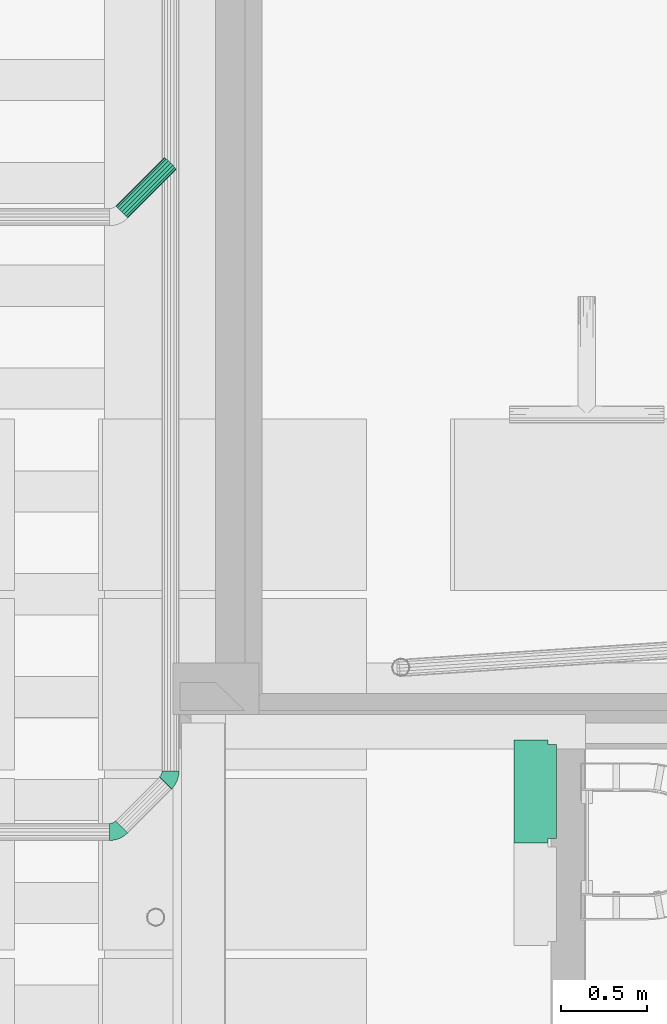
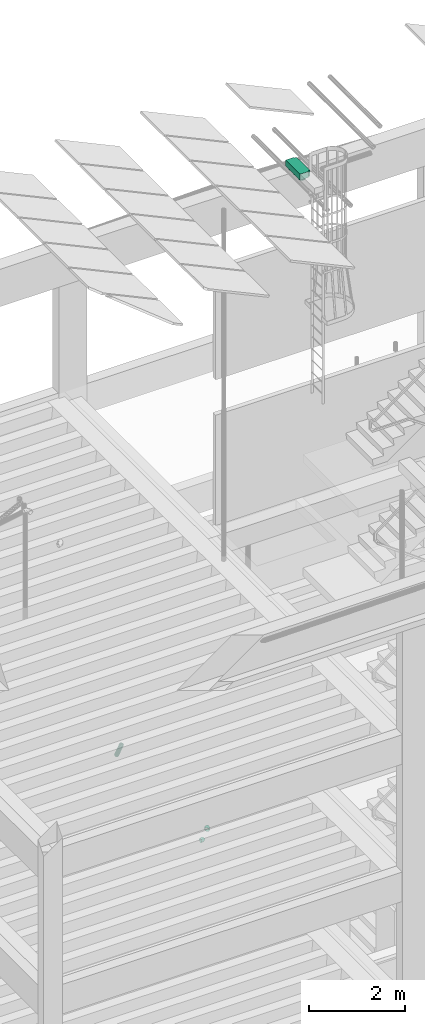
# One storey, part 84 of 106: 3 flow fittings, 1 flow segment.
"""IFC2X3 building model written with IfcOpenShell, lengths in metres."""

from ifc_helpers import new_model, entity, si_unit, converted_unit, derived_unit, money_unit, direction, frame, origin_with_axes, place, context, subcontext, project, spatial, open_shell, faceted_brep, surface_model, material, type_object, element, save


model = new_model("IFC2X3")

# Units and contexts
model_context = context("Model", 3, precision=1e-05, world=origin_with_axes(), true_north=direction((0.0, 1.0)))
body_context = subcontext(model_context, "Body", "Model", "MODEL_VIEW", scale=1.0)
ifc_project = project(units=[si_unit("LENGTHUNIT", "METRE"), si_unit("AREAUNIT", "SQUARE_METRE"), si_unit("VOLUMEUNIT", "CUBIC_METRE"), si_unit("ABSORBEDDOSEUNIT", "GRAY"), si_unit("AMOUNTOFSUBSTANCEUNIT", "MOLE"), si_unit("DOSEEQUIVALENTUNIT", "SIEVERT"), si_unit("ELECTRICCAPACITANCEUNIT", "FARAD"), si_unit("ELECTRICCHARGEUNIT", "COULOMB"), si_unit("ELECTRICCONDUCTANCEUNIT", "SIEMENS"), si_unit("ELECTRICCURRENTUNIT", "AMPERE"), si_unit("ELECTRICRESISTANCEUNIT", "OHM"), si_unit("ELECTRICVOLTAGEUNIT", "VOLT"), si_unit("ENERGYUNIT", "JOULE"), si_unit("FORCEUNIT", "NEWTON"), si_unit("FREQUENCYUNIT", "HERTZ"), si_unit("ILLUMINANCEUNIT", "LUX"), si_unit("INDUCTANCEUNIT", "HENRY"), si_unit("LUMINOUSFLUXUNIT", "LUMEN"), si_unit("LUMINOUSINTENSITYUNIT", "CANDELA"), si_unit("MAGNETICFLUXDENSITYUNIT", "TESLA"), si_unit("MAGNETICFLUXUNIT", "WEBER"), si_unit("MASSUNIT", "GRAM"), converted_unit("PLANEANGLEUNIT", "degree", entity("IfcReal", 0.0174532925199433), si_unit("PLANEANGLEUNIT", "RADIAN"), dimensions=[0, 0, 0, 0, 0, 0, 0]), si_unit("POWERUNIT", "WATT"), si_unit("PRESSUREUNIT", "PASCAL"), si_unit("RADIOACTIVITYUNIT", "BECQUEREL"), si_unit("SOLIDANGLEUNIT", "STERADIAN"), si_unit("THERMODYNAMICTEMPERATUREUNIT", "KELVIN"), si_unit("TIMEUNIT", "SECOND"), derived_unit("ACCELERATIONUNIT", [(si_unit("LENGTHUNIT", "METRE"), 1), (si_unit("TIMEUNIT", "SECOND"), -2)]), derived_unit("ANGULARVELOCITYUNIT", [(converted_unit("PLANEANGLEUNIT", "degree", entity("IfcReal", 0.0174532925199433), si_unit("PLANEANGLEUNIT", "RADIAN"), dimensions=[0, 0, 0, 0, 0, 0, 0]), 1), (si_unit("TIMEUNIT", "SECOND"), -1)]), derived_unit("CURVATUREUNIT", [(converted_unit("PLANEANGLEUNIT", "degree", entity("IfcReal", 0.0174532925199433), si_unit("PLANEANGLEUNIT", "RADIAN"), dimensions=[0, 0, 0, 0, 0, 0, 0]), 1), (si_unit("LENGTHUNIT", "METRE"), -1)]), derived_unit("DYNAMICVISCOSITYUNIT", [(si_unit("PRESSUREUNIT", "PASCAL"), 1), (si_unit("TIMEUNIT", "SECOND"), 1)]), derived_unit("HEATFLUXDENSITYUNIT", [(si_unit("POWERUNIT", "WATT"), 1), (si_unit("LENGTHUNIT", "METRE"), -2)]), derived_unit("HEATINGVALUEUNIT", [(si_unit("ENERGYUNIT", "JOULE"), 1), (si_unit("MASSUNIT", "GRAM"), -1)]), derived_unit("INTEGERCOUNTRATEUNIT", [(si_unit("TIMEUNIT", "SECOND"), -1)]), derived_unit("IONCONCENTRATIONUNIT", [(si_unit("MASSUNIT", "GRAM"), 1), (si_unit("VOLUMEUNIT", "CUBIC_METRE"), -1)]), derived_unit("ISOTHERMALMOISTURECAPACITYUNIT", [(si_unit("VOLUMEUNIT", "CUBIC_METRE"), 1), (si_unit("MASSUNIT", "GRAM"), -1)]), derived_unit("KINEMATICVISCOSITYUNIT", [(si_unit("AREAUNIT", "SQUARE_METRE"), 1), (si_unit("TIMEUNIT", "SECOND"), -1)]), derived_unit("LINEARFORCEUNIT", [(si_unit("FORCEUNIT", "NEWTON"), 1), (si_unit("LENGTHUNIT", "METRE"), -1)]), derived_unit("LINEARMOMENTUNIT", [(si_unit("FORCEUNIT", "NEWTON"), 1), (si_unit("LENGTHUNIT", "METRE"), -1)]), derived_unit("LINEARSTIFFNESSUNIT", [(si_unit("FORCEUNIT", "NEWTON"), 1), (si_unit("LENGTHUNIT", "METRE"), -1)]), derived_unit("LINEARVELOCITYUNIT", [(si_unit("LENGTHUNIT", "METRE"), 1), (si_unit("TIMEUNIT", "SECOND"), -1)]), derived_unit("LUMINOUSINTENSITYDISTRIBUTIONUNIT", [(si_unit("LUMINOUSINTENSITYUNIT", "CANDELA"), 1), (si_unit("LUMINOUSFLUXUNIT", "LUMEN"), -1)]), derived_unit("MASSDENSITYUNIT", [(si_unit("MASSUNIT", "GRAM"), 1), (si_unit("VOLUMEUNIT", "CUBIC_METRE"), -1)]), derived_unit("MASSFLOWRATEUNIT", [(si_unit("MASSUNIT", "GRAM"), 1), (si_unit("TIMEUNIT", "SECOND"), -1)]), derived_unit("MASSPERLENGTHUNIT", [(si_unit("MASSUNIT", "GRAM"), 1), (si_unit("LENGTHUNIT", "METRE"), -1)]), derived_unit("MODULUSOFELASTICITYUNIT", [(si_unit("FORCEUNIT", "NEWTON"), 1), (si_unit("AREAUNIT", "SQUARE_METRE"), -1)]), derived_unit("MODULUSOFLINEARSUBGRADEREACTIONUNIT", [(si_unit("FORCEUNIT", "NEWTON"), 1), (si_unit("LENGTHUNIT", "METRE"), -2)]), derived_unit("MODULUSOFROTATIONALSUBGRADEREACTIONUNIT", [(si_unit("FORCEUNIT", "NEWTON"), 1), (si_unit("LENGTHUNIT", "METRE"), 1)]), derived_unit("MODULUSOFSUBGRADEREACTIONUNIT", [(si_unit("FORCEUNIT", "NEWTON"), 1), (si_unit("VOLUMEUNIT", "CUBIC_METRE"), -1)]), derived_unit("MOISTUREDIFFUSIVITYUNIT", [(si_unit("VOLUMEUNIT", "CUBIC_METRE"), 1), (si_unit("TIMEUNIT", "SECOND"), -1)]), derived_unit("MOLECULARWEIGHTUNIT", [(si_unit("MASSUNIT", "GRAM"), 1), (si_unit("AMOUNTOFSUBSTANCEUNIT", "MOLE"), -1)]), derived_unit("PLANARFORCEUNIT", [(si_unit("FORCEUNIT", "NEWTON"), 1), (si_unit("LENGTHUNIT", "METRE"), -2)]), derived_unit("ROTATIONALFREQUENCYUNIT", [(si_unit("TIMEUNIT", "SECOND"), -1)]), derived_unit("ROTATIONALMASSUNIT", [(si_unit("MASSUNIT", "GRAM"), 1), (si_unit("LENGTHUNIT", "METRE"), 2)]), derived_unit("ROTATIONALSTIFFNESSUNIT", [(si_unit("FORCEUNIT", "NEWTON"), 1), (si_unit("LENGTHUNIT", "METRE"), 1), (converted_unit("PLANEANGLEUNIT", "degree", entity("IfcReal", 0.0174532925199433), si_unit("PLANEANGLEUNIT", "RADIAN"), dimensions=[0, 0, 0, 0, 0, 0, 0]), -1)]), derived_unit("SECTIONAREAINTEGRALUNIT", [(si_unit("LENGTHUNIT", "METRE"), 5)]), derived_unit("SECTIONMODULUSUNIT", [(si_unit("LENGTHUNIT", "METRE"), 3)]), derived_unit("SHEARMODULUSUNIT", [(si_unit("FORCEUNIT", "NEWTON"), 1), (si_unit("AREAUNIT", "SQUARE_METRE"), -1)]), derived_unit("SOUNDPOWERUNIT", [(si_unit("ENERGYUNIT", "JOULE"), 1), (si_unit("TIMEUNIT", "SECOND"), -1)]), derived_unit("SPECIFICHEATCAPACITYUNIT", [(si_unit("FORCEUNIT", "NEWTON"), 1), (si_unit("MASSUNIT", "GRAM"), -1), (si_unit("THERMODYNAMICTEMPERATUREUNIT", "KELVIN"), -1)]), derived_unit("TEMPERATUREGRADIENTUNIT", [(si_unit("THERMODYNAMICTEMPERATUREUNIT", "KELVIN"), 1), (si_unit("LENGTHUNIT", "METRE"), -1)]), derived_unit("THERMALADMITTANCEUNIT", [(si_unit("POWERUNIT", "WATT"), 1), (si_unit("AREAUNIT", "SQUARE_METRE"), -1), (si_unit("THERMODYNAMICTEMPERATUREUNIT", "KELVIN"), -1)]), derived_unit("THERMALCONDUCTANCEUNIT", [(si_unit("POWERUNIT", "WATT"), 1), (si_unit("LENGTHUNIT", "METRE"), -1), (si_unit("THERMODYNAMICTEMPERATUREUNIT", "KELVIN"), -1)]), derived_unit("THERMALEXPANSIONCOEFFICIENTUNIT", [(si_unit("THERMODYNAMICTEMPERATUREUNIT", "KELVIN"), -1)]), derived_unit("THERMALRESISTANCEUNIT", [(si_unit("AREAUNIT", "SQUARE_METRE"), 1), (si_unit("POWERUNIT", "WATT"), -1)]), derived_unit("THERMALTRANSMITTANCEUNIT", [(si_unit("POWERUNIT", "WATT"), 1), (si_unit("AREAUNIT", "SQUARE_METRE"), -1), (si_unit("THERMODYNAMICTEMPERATUREUNIT", "KELVIN"), -1)]), derived_unit("TORQUEUNIT", [(si_unit("FORCEUNIT", "NEWTON"), 1), (si_unit("LENGTHUNIT", "METRE"), 1)]), derived_unit("VAPORPERMEABILITYUNIT", [(si_unit("MASSUNIT", "GRAM"), 1), (si_unit("TIMEUNIT", "SECOND"), -1)]), derived_unit("VOLUMETRICFLOWRATEUNIT", [(si_unit("VOLUMEUNIT", "CUBIC_METRE"), 1), (si_unit("TIMEUNIT", "SECOND"), -1)]), derived_unit("WARPINGCONSTANTUNIT", [(si_unit("LENGTHUNIT", "METRE"), 6)]), derived_unit("WARPINGMOMENTUNIT", [(si_unit("FORCEUNIT", "NEWTON"), 1), (si_unit("LENGTHUNIT", "METRE"), 2)]), money_unit("GBP")], contexts=[model_context])

# Site, building, storey
site_placement = place(None, origin_with_axes())
site = spatial("IfcSite", under=ifc_project, at=site_placement, Name="Site", CompositionType="ELEMENT")
building_placement = place(site_placement, origin_with_axes())
building = spatial("IfcBuilding", under=site, at=building_placement, Name="Building01", CompositionType="ELEMENT")
storey_placement = place(building_placement, origin_with_axes())
storey = spatial("IfcBuildingStorey", under=building, at=storey_placement, Name="GF", CompositionType="ELEMENT", Elevation=0.0)

# Flow fitting
ifc_material_1 = material(Name="M_BSUK_Ventilation")
duct_fitting_type = type_object("IfcDuctFittingType", Name="M-PlenumBoxRoundMultiPort-Side", PredefinedType="JUNCTION")
flow_fitting_1_placement = place(storey_placement, frame((11.1118, 8.399939, 20.689914), z_axis=(-1.0, 0.0, 0.0), x_axis=(0.0, 0.0, 1.0)))
element("IfcFlowFitting", 1, at=flow_fitting_1_placement, inside=storey, type_object=duct_fitting_type, material=ifc_material_1, Name="M-PlenumBoxRoundMultiPort-Side", ObjectType="M-PlenumBoxRoundMultiPort-Side", context=body_context, shape_type="SurfaceModel", body=[
    surface_model("IfcShellBasedSurfaceModel", [(-0.075, 0.3, 0.0), (-0.075, 0.3, 0.2), (-0.075, -0.3, 0.2), (-0.075, -0.3, 0.0), (-0.075, -0.071329, 0.123176), (-0.075, -0.060676, 0.144084), (-0.075, -0.044084, 0.160676), (-0.075, -0.023176, 0.171329), (-0.075, 0.0, 0.175), (-0.075, 0.023176, 0.171329), (-0.075, 0.044084, 0.160676), (-0.075, 0.060676, 0.144084), (-0.075, 0.071329, 0.123176), (-0.075, 0.075, 0.1), (-0.075, 0.071329, 0.076824), (-0.075, 0.060676, 0.055916), (-0.075, 0.044084, 0.039324), (-0.075, 0.023176, 0.028671), (-0.075, 0.0, 0.025), (-0.075, -0.023176, 0.028671), (-0.075, -0.044084, 0.039324), (-0.075, -0.060676, 0.055916), (-0.075, -0.071329, 0.076824), (-0.075, -0.075, 0.1), (-0.075, 0.128671, 0.123176), (-0.075, 0.139324, 0.144084), (-0.075, 0.155916, 0.160676), (-0.075, 0.176824, 0.171329), (-0.075, 0.2, 0.175), (-0.075, 0.223176, 0.171329), (-0.075, 0.244084, 0.160676), (-0.075, 0.260676, 0.144084), (-0.075, 0.271329, 0.123176), (-0.075, 0.275, 0.1), (-0.075, 0.271329, 0.076824), (-0.075, 0.260676, 0.055916), (-0.075, 0.244084, 0.039324), (-0.075, 0.223176, 0.028671), (-0.075, 0.2, 0.025), (-0.075, 0.176824, 0.028671), (-0.075, 0.155916, 0.039324), (-0.075, 0.139324, 0.055916), (-0.075, 0.128671, 0.076824), (-0.075, 0.125, 0.1), (-0.075, -0.271329, 0.123176), (-0.075, -0.260676, 0.144084), (-0.075, -0.244084, 0.160676), (-0.075, -0.223176, 0.171329), (-0.075, -0.2, 0.175), (-0.075, -0.176824, 0.171329), (-0.075, -0.155916, 0.160676), (-0.075, -0.139324, 0.144084), (-0.075, -0.128671, 0.123176), (-0.075, -0.125, 0.1), (-0.075, -0.128671, 0.076824), (-0.075, -0.139324, 0.055916), (-0.075, -0.155916, 0.039324), (-0.075, -0.176824, 0.028671), (-0.075, -0.2, 0.025), (-0.075, -0.223176, 0.028671), (-0.075, -0.244084, 0.039324), (-0.075, -0.260676, 0.055916), (-0.075, -0.271329, 0.076824), (-0.075, -0.275, 0.1), (0.075, 0.3, 0.2), (0.075, 0.3, 0.0), (0.075, -0.3, 0.0), (0.075, -0.3, 0.2), (-0.07495, -0.275, 0.0), (0.07495, -0.275, 0.0), (0.07495, 0.275, 0.0), (-0.07495, 0.275, 0.0), (0.075, 0.275, -0.05), (-0.075, 0.275, -0.05), (-0.075, 0.275, 0.0), (0.075, 0.275, 0.0), (-0.075, -0.275, -0.05), (-0.075, -0.275, 0.0), (0.075, -0.275, -0.05), (0.075, -0.275, 0.0), (-0.125, -0.2, 0.025), (-0.125, -0.223176, 0.028671), (-0.125, -0.244084, 0.039324), (-0.125, -0.260676, 0.055916), (-0.125, -0.271329, 0.076824), (-0.125, -0.275, 0.1), (-0.125, -0.271329, 0.123176), (-0.125, -0.260676, 0.144084), (-0.125, -0.244084, 0.160676), (-0.125, -0.223176, 0.171329), (-0.125, -0.2, 0.175), (-0.125, -0.176824, 0.171329), (-0.125, -0.155916, 0.160676), (-0.125, -0.139324, 0.144084), (-0.125, -0.128671, 0.123176), (-0.125, -0.125, 0.1), (-0.125, -0.128671, 0.076824), (-0.125, -0.139324, 0.055916), (-0.125, -0.155916, 0.039324), (-0.125, -0.176824, 0.028671), (-0.125, 0.0, 0.025), (-0.125, -0.023176, 0.028671), (-0.125, -0.044084, 0.039324), (-0.125, -0.060676, 0.055916), (-0.125, -0.071329, 0.076824), (-0.125, -0.075, 0.1), (-0.125, -0.071329, 0.123176), (-0.125, -0.060676, 0.144084), (-0.125, -0.044084, 0.160676), (-0.125, -0.023176, 0.171329), (-0.125, 0.0, 0.175), (-0.125, 0.023176, 0.171329), (-0.125, 0.044084, 0.160676), (-0.125, 0.060676, 0.144084), (-0.125, 0.071329, 0.123176), (-0.125, 0.075, 0.1), (-0.125, 0.071329, 0.076824), (-0.125, 0.060676, 0.055916), (-0.125, 0.044084, 0.039324), (-0.125, 0.023176, 0.028671), (-0.125, 0.2, 0.025), (-0.125, 0.176824, 0.028671), (-0.125, 0.155916, 0.039324), (-0.125, 0.139324, 0.055916), (-0.125, 0.128671, 0.076824), (-0.125, 0.125, 0.1), (-0.125, 0.128671, 0.123176), (-0.125, 0.139324, 0.144084), (-0.125, 0.155916, 0.160676), (-0.125, 0.176824, 0.171329), (-0.125, 0.2, 0.175), (-0.125, 0.223176, 0.171329), (-0.125, 0.244084, 0.160676), (-0.125, 0.260676, 0.144084), (-0.125, 0.271329, 0.123176), (-0.125, 0.275, 0.1), (-0.125, 0.271329, 0.076824), (-0.125, 0.260676, 0.055916), (-0.125, 0.244084, 0.039324), (-0.125, 0.223176, 0.028671)], [open_shell([[[0, 1, 2, 3], [4, 5, 6, 7, 8, 9, 10, 11, 12, 13, 14, 15, 16, 17, 18, 19, 20, 21, 22, 23], [24, 25, 26, 27, 28, 29, 30, 31, 32, 33, 34, 35, 36, 37, 38, 39, 40, 41, 42, 43], [44, 45, 46, 47, 48, 49, 50, 51, 52, 53, 54, 55, 56, 57, 58, 59, 60, 61, 62, 63]], [[64, 65, 0, 1]], [[2, 3, 66, 67]], [[65, 66, 3, 0], [68, 69, 70, 71]], [[72, 73, 74, 71, 70, 75]], [[73, 76, 77, 74]], [[78, 72, 75, 79]], [[76, 78, 79, 69, 68, 77]], [[65, 64, 67, 66]], [[67, 64, 1, 2]], [[80, 58, 59, 81]], [[81, 59, 60, 82]], [[82, 60, 61, 83]], [[83, 61, 62, 84]], [[84, 62, 63, 85]], [[85, 63, 44, 86]], [[86, 44, 45, 87]], [[87, 45, 46, 88]], [[88, 46, 47, 89]], [[89, 47, 48, 90]], [[90, 48, 49, 91]], [[91, 49, 50, 92]], [[92, 50, 51, 93]], [[93, 51, 52, 94]], [[94, 52, 53, 95]], [[95, 53, 54, 96]], [[96, 54, 55, 97]], [[97, 55, 56, 98]], [[98, 56, 57, 99]], [[99, 57, 58, 80]], [[100, 18, 19, 101]], [[101, 19, 20, 102]], [[102, 20, 21, 103]], [[103, 21, 22, 104]], [[104, 22, 23, 105]], [[105, 23, 4, 106]], [[106, 4, 5, 107]], [[107, 5, 6, 108]], [[108, 6, 7, 109]], [[109, 7, 8, 110]], [[110, 8, 9, 111]], [[111, 9, 10, 112]], [[112, 10, 11, 113]], [[113, 11, 12, 114]], [[114, 12, 13, 115]], [[115, 13, 14, 116]], [[116, 14, 15, 117]], [[117, 15, 16, 118]], [[118, 16, 17, 119]], [[119, 17, 18, 100]], [[120, 38, 39, 121]], [[121, 39, 40, 122]], [[122, 40, 41, 123]], [[123, 41, 42, 124]], [[124, 42, 43, 125]], [[125, 43, 24, 126]], [[126, 24, 25, 127]], [[127, 25, 26, 128]], [[128, 26, 27, 129]], [[129, 27, 28, 130]], [[130, 28, 29, 131]], [[131, 29, 30, 132]], [[132, 30, 31, 133]], [[133, 31, 32, 134]], [[134, 32, 33, 135]], [[135, 33, 34, 136]], [[136, 34, 35, 137]], [[137, 35, 36, 138]], [[138, 36, 37, 139]], [[139, 37, 38, 120]]])]),
])

# Space
space_placement = place(storey_placement, frame((3.380525, 16.69365, 0.216987), z_axis=(0.0, 0.0, 1.0), x_axis=(-1.0, 0.0, 0.0)))
space = spatial("IfcSpace", under=storey, at=space_placement, Name="0", CompositionType="ELEMENT", InteriorOrExteriorSpace="NOTDEFINED")

# Flow segment
ifc_material_2 = material(Name="M_BSUK_ColdWater")
pipe_segment_type = type_object("IfcPipeSegmentType", Name="M-BmpStraightpipe-DefaultPipe", PredefinedType="RIGIDSEGMENT")
flow_segment_placement = place(storey_placement, frame((8.624542, 11.779284, 4.577875), z_axis=(0.00883814, 0.00883814, 0.99992188), x_axis=(0.70705155, 0.70705154, -0.01249902)))
element("IfcFlowSegment", 2, at=flow_segment_placement, inside=space, type_object=pipe_segment_type, material=ifc_material_2, Name="M-BmpStraightpipe-DefaultPipe", ObjectType="M-BmpStraightpipe-DefaultPipe", context=body_context, shape_type="Brep", body=[
    faceted_brep([(0.403638, 0.0, -0.05), (0.0, 0.0, -0.05), (0.0, 0.019134, -0.046194), (0.403638, 0.019134, -0.046194), (0.0, 0.035355, -0.035355), (0.403638, 0.035355, -0.035355), (0.0, 0.046194, -0.019134), (0.403638, 0.046194, -0.019134), (0.0, 0.05, 0.0), (0.403638, 0.05, 0.0), (0.0, 0.046194, 0.019134), (0.403638, 0.046194, 0.019134), (0.0, 0.035355, 0.035355), (0.403638, 0.035355, 0.035355), (0.0, 0.019134, 0.046194), (0.403638, 0.019134, 0.046194), (0.0, 0.0, 0.05), (0.403638, 0.0, 0.05), (0.0, -0.019134, 0.046194), (0.403638, -0.019134, 0.046194), (0.0, -0.035355, 0.035355), (0.403638, -0.035355, 0.035355), (0.0, -0.046194, 0.019134), (0.403638, -0.046194, 0.019134), (0.0, -0.05, 0.0), (0.403638, -0.05, 0.0), (0.0, -0.046194, -0.019134), (0.403638, -0.046194, -0.019134), (0.0, -0.035355, -0.035355), (0.403638, -0.035355, -0.035355), (0.0, -0.019134, -0.046194), (0.403638, -0.019134, -0.046194)], [[[0, 1, 2, 3]], [[3, 2, 4, 5]], [[5, 4, 6, 7]], [[7, 6, 8, 9]], [[9, 8, 10, 11]], [[11, 10, 12, 13]], [[13, 12, 14, 15]], [[15, 14, 16, 17]], [[17, 16, 18, 19]], [[19, 18, 20, 21]], [[21, 20, 22, 23]], [[23, 22, 24, 25]], [[25, 24, 26, 27]], [[27, 26, 28, 29]], [[29, 28, 30, 31]], [[31, 30, 1, 0]]]),
])

# Flow fittings
pipe_fitting_type = type_object("IfcPipeFittingType", Name="M-BmpElbow-DefaultElbow", PredefinedType="BEND")
flow_fitting_2_placement = place(storey_placement, frame((8.553844, 8.16317, 4.623783), z_axis=(6.471e-05, -0.9999866, 0.00517679), x_axis=(0.99992188, 0.0, -0.01249902)))
element("IfcFlowFitting", 3, at=flow_fitting_2_placement, inside=space, type_object=pipe_fitting_type, material=ifc_material_2, Name="M-BmpElbow-DefaultElbow", ObjectType="M-BmpElbow-DefaultElbow", context=body_context, shape_type="SurfaceModel", body=[
    surface_model("IfcShellBasedSurfaceModel", [(0.008111, -0.01349, -0.048784), (0.0, -0.01349, -0.048146), (0.0, 0.0, -0.05), (0.007821, 0.0, -0.050615), (0.016023, -0.01349, -0.050683), (0.01545, 0.0, -0.052447), (0.023539, -0.01349, -0.053797), (0.022698, 0.0, -0.055449), (0.030477, -0.01349, -0.058048), (0.029387, 0.0, -0.059548), (0.036664, -0.01349, -0.063331), (0.035353, 0.0, -0.064642), (0.00896, -0.025979, -0.043426), (0.0, -0.025979, -0.042721), (0.017699, -0.025979, -0.045524), (0.026002, -0.025979, -0.048963), (0.033665, -0.025979, -0.053659), (0.0405, -0.025979, -0.059495), (0.010304, -0.036542, -0.034939), (0.0, -0.036542, -0.034128), (0.020354, -0.036542, -0.037351), (0.029903, -0.036542, -0.041306), (0.038716, -0.036542, -0.046706), (0.046576, -0.036542, -0.053418), (0.012044, -0.044394, -0.023951), (0.0, -0.044394, -0.023003), (0.023791, -0.044394, -0.026771), (0.034953, -0.044394, -0.031394), (0.045254, -0.044394, -0.037706), (0.054441, -0.044394, -0.045552), (0.014051, -0.048954, -0.011279), (0.0, -0.048954, -0.010173), (0.027756, -0.048954, -0.014569), (0.040778, -0.048954, -0.019962), (0.052795, -0.048954, -0.027326), (0.063513, -0.048954, -0.036478), (0.016176, -0.049883, 0.002139), (0.0, -0.049883, 0.003412), (0.031954, -0.049883, -0.001648), (0.046945, -0.049883, -0.007857), (0.06078, -0.049883, -0.016335), (0.073119, -0.049883, -0.026872), (0.018261, -0.047113, 0.015307), (0.0, -0.047113, 0.016744), (0.036073, -0.047113, 0.011031), (0.052997, -0.047113, 0.004022), (0.068616, -0.047113, -0.005549), (0.082545, -0.047113, -0.017444), (0.020152, -0.040848, 0.027248), (0.0, -0.040848, 0.028834), (0.039809, -0.040848, 0.022529), (0.058485, -0.040848, 0.014794), (0.075721, -0.040848, 0.004233), (0.091094, -0.040848, -0.008895), (0.021709, -0.031554, 0.037077), (0.0, -0.031554, 0.038786), (0.042884, -0.031554, 0.031994), (0.063003, -0.031554, 0.023661), (0.08157, -0.031554, 0.012284), (0.09813, -0.031554, -0.001857), (0.022816, -0.01992, 0.044065), (0.0, -0.01992, 0.045861), (0.04507, -0.01992, 0.038723), (0.066214, -0.01992, 0.029965), (0.085729, -0.01992, 0.018008), (0.103132, -0.01992, 0.003146), (0.02339, -0.006808, 0.047694), (0.0, -0.006808, 0.049534), (0.046205, -0.006808, 0.042217), (0.067882, -0.006808, 0.033239), (0.087888, -0.006808, 0.02098), (0.10573, -0.006808, 0.005744), (0.02339, 0.006808, 0.047694), (0.0, 0.006808, 0.049534), (0.046205, 0.006808, 0.042217), (0.067882, 0.006808, 0.033239), (0.087888, 0.006808, 0.02098), (0.10573, 0.006808, 0.005744), (0.022816, 0.01992, 0.044065), (0.0, 0.01992, 0.045861), (0.04507, 0.01992, 0.038723), (0.066214, 0.01992, 0.029965), (0.085729, 0.01992, 0.018008), (0.103132, 0.01992, 0.003146), (0.021709, 0.031554, 0.037077), (0.0, 0.031554, 0.038786), (0.042884, 0.031554, 0.031994), (0.063003, 0.031554, 0.023661), (0.08157, 0.031554, 0.012284), (0.09813, 0.031554, -0.001857), (0.020152, 0.040848, 0.027248), (0.0, 0.040848, 0.028834), (0.039809, 0.040848, 0.022529), (0.058485, 0.040848, 0.014794), (0.075721, 0.040848, 0.004233), (0.091094, 0.040848, -0.008895), (0.018261, 0.047113, 0.015307), (0.0, 0.047113, 0.016744), (0.036073, 0.047113, 0.011031), (0.052997, 0.047113, 0.004022), (0.068616, 0.047113, -0.005549), (0.082545, 0.047113, -0.017444), (0.016176, 0.049883, 0.002139), (0.0, 0.049883, 0.003412), (0.031954, 0.049883, -0.001648), (0.046945, 0.049883, -0.007857), (0.06078, 0.049883, -0.016335), (0.073119, 0.049883, -0.026872), (0.014051, 0.048954, -0.011279), (0.0, 0.048954, -0.010173), (0.027756, 0.048954, -0.014569), (0.040778, 0.048954, -0.019962), (0.052795, 0.048954, -0.027326), (0.063513, 0.048954, -0.036478), (0.012044, 0.044394, -0.023951), (0.0, 0.044394, -0.023003), (0.023791, 0.044394, -0.026771), (0.034953, 0.044394, -0.031394), (0.045254, 0.044394, -0.037706), (0.054441, 0.044394, -0.045552), (0.010304, 0.036542, -0.034939), (0.0, 0.036542, -0.034128), (0.020354, 0.036542, -0.037351), (0.029903, 0.036542, -0.041306), (0.038716, 0.036542, -0.046706), (0.046576, 0.036542, -0.053418), (0.00896, 0.025979, -0.043426), (0.0, 0.025979, -0.042721), (0.017699, 0.025979, -0.045524), (0.026002, 0.025979, -0.048963), (0.033665, 0.025979, -0.053659), (0.0405, 0.025979, -0.059495), (0.008111, 0.01349, -0.048784), (0.0, 0.01349, -0.048146), (0.016023, 0.01349, -0.050683), (0.023539, 0.01349, -0.053797), (0.030477, 0.01349, -0.058048), (0.036664, 0.01349, -0.063331)], [open_shell([[[0, 1, 2, 3]], [[4, 0, 3, 5]], [[6, 4, 5, 7]], [[8, 6, 7, 9]], [[10, 8, 9, 11]], [[12, 13, 1, 0]], [[14, 12, 0, 4]], [[15, 14, 4, 6]], [[16, 15, 6, 8]], [[17, 16, 8, 10]], [[18, 19, 13, 12]], [[20, 18, 12, 14]], [[21, 20, 14, 15]], [[22, 21, 15, 16]], [[23, 22, 16, 17]], [[24, 25, 19, 18]], [[26, 24, 18, 20]], [[27, 26, 20, 21]], [[28, 27, 21, 22]], [[29, 28, 22, 23]], [[30, 31, 25, 24]], [[32, 30, 24, 26]], [[33, 32, 26, 27]], [[34, 33, 27, 28]], [[35, 34, 28, 29]], [[36, 37, 31, 30]], [[38, 36, 30, 32]], [[39, 38, 32, 33]], [[40, 39, 33, 34]], [[41, 40, 34, 35]], [[42, 43, 37, 36]], [[44, 42, 36, 38]], [[45, 44, 38, 39]], [[46, 45, 39, 40]], [[47, 46, 40, 41]], [[48, 49, 43, 42]], [[50, 48, 42, 44]], [[51, 50, 44, 45]], [[52, 51, 45, 46]], [[53, 52, 46, 47]], [[54, 55, 49, 48]], [[56, 54, 48, 50]], [[57, 56, 50, 51]], [[58, 57, 51, 52]], [[59, 58, 52, 53]], [[60, 61, 55, 54]], [[62, 60, 54, 56]], [[63, 62, 56, 57]], [[64, 63, 57, 58]], [[65, 64, 58, 59]], [[66, 67, 61, 60]], [[68, 66, 60, 62]], [[69, 68, 62, 63]], [[70, 69, 63, 64]], [[71, 70, 64, 65]], [[72, 73, 67, 66]], [[74, 72, 66, 68]], [[75, 74, 68, 69]], [[76, 75, 69, 70]], [[77, 76, 70, 71]], [[78, 79, 73, 72]], [[80, 78, 72, 74]], [[81, 80, 74, 75]], [[82, 81, 75, 76]], [[83, 82, 76, 77]], [[84, 85, 79, 78]], [[86, 84, 78, 80]], [[87, 86, 80, 81]], [[88, 87, 81, 82]], [[89, 88, 82, 83]], [[90, 91, 85, 84]], [[92, 90, 84, 86]], [[93, 92, 86, 87]], [[94, 93, 87, 88]], [[95, 94, 88, 89]], [[96, 97, 91, 90]], [[98, 96, 90, 92]], [[99, 98, 92, 93]], [[100, 99, 93, 94]], [[101, 100, 94, 95]], [[102, 103, 97, 96]], [[104, 102, 96, 98]], [[105, 104, 98, 99]], [[106, 105, 99, 100]], [[107, 106, 100, 101]], [[108, 109, 103, 102]], [[110, 108, 102, 104]], [[111, 110, 104, 105]], [[112, 111, 105, 106]], [[113, 112, 106, 107]], [[114, 115, 109, 108]], [[116, 114, 108, 110]], [[117, 116, 110, 111]], [[118, 117, 111, 112]], [[119, 118, 112, 113]], [[120, 121, 115, 114]], [[122, 120, 114, 116]], [[123, 122, 116, 117]], [[124, 123, 117, 118]], [[125, 124, 118, 119]], [[126, 127, 121, 120]], [[128, 126, 120, 122]], [[129, 128, 122, 123]], [[130, 129, 123, 124]], [[131, 130, 124, 125]], [[132, 133, 127, 126]], [[134, 132, 126, 128]], [[135, 134, 128, 129]], [[136, 135, 129, 130]], [[137, 136, 130, 131]], [[3, 2, 133, 132]], [[5, 3, 132, 134]], [[7, 5, 134, 135]], [[9, 7, 135, 136]], [[11, 9, 136, 137]]])]),
])
flow_fitting_3_placement = place(storey_placement, frame((8.880651, 8.448563, 4.618221), z_axis=(0.70714306, -0.70705155, 0.00517679), x_axis=(0.70705155, 0.70705154, -0.01249902)))
element("IfcFlowFitting", 4, at=flow_fitting_3_placement, inside=space, type_object=pipe_fitting_type, material=ifc_material_2, Name="M-BmpElbow-DefaultElbow", ObjectType="M-BmpElbow-DefaultElbow", context=body_context, shape_type="SurfaceModel", body=[
    surface_model("IfcShellBasedSurfaceModel", [(0.008111, -0.01349, -0.048784), (0.0, -0.01349, -0.048146), (0.0, 0.0, -0.05), (0.007821, 0.0, -0.050615), (0.016023, -0.01349, -0.050683), (0.01545, 0.0, -0.052447), (0.023539, -0.01349, -0.053797), (0.022698, 0.0, -0.055449), (0.030477, -0.01349, -0.058048), (0.029387, 0.0, -0.059548), (0.036664, -0.01349, -0.063331), (0.035353, 0.0, -0.064642), (0.00896, -0.025979, -0.043426), (0.0, -0.025979, -0.042721), (0.017699, -0.025979, -0.045524), (0.026002, -0.025979, -0.048963), (0.033665, -0.025979, -0.053659), (0.0405, -0.025979, -0.059495), (0.010304, -0.036542, -0.034939), (0.0, -0.036542, -0.034128), (0.020354, -0.036542, -0.037351), (0.029903, -0.036542, -0.041306), (0.038716, -0.036542, -0.046706), (0.046576, -0.036542, -0.053418), (0.012044, -0.044394, -0.023951), (0.0, -0.044394, -0.023003), (0.023791, -0.044394, -0.026771), (0.034953, -0.044394, -0.031394), (0.045254, -0.044394, -0.037706), (0.054441, -0.044394, -0.045552), (0.014051, -0.048954, -0.011279), (0.0, -0.048954, -0.010173), (0.027756, -0.048954, -0.014569), (0.040778, -0.048954, -0.019962), (0.052795, -0.048954, -0.027326), (0.063513, -0.048954, -0.036478), (0.016176, -0.049883, 0.002139), (0.0, -0.049883, 0.003412), (0.031954, -0.049883, -0.001648), (0.046945, -0.049883, -0.007857), (0.06078, -0.049883, -0.016335), (0.073119, -0.049883, -0.026872), (0.018261, -0.047113, 0.015307), (0.0, -0.047113, 0.016744), (0.036073, -0.047113, 0.011031), (0.052997, -0.047113, 0.004022), (0.068616, -0.047113, -0.005549), (0.082545, -0.047113, -0.017444), (0.020152, -0.040848, 0.027248), (0.0, -0.040848, 0.028834), (0.039809, -0.040848, 0.022529), (0.058485, -0.040848, 0.014794), (0.075721, -0.040848, 0.004233), (0.091094, -0.040848, -0.008895), (0.021709, -0.031554, 0.037077), (0.0, -0.031554, 0.038786), (0.042884, -0.031554, 0.031994), (0.063003, -0.031554, 0.023661), (0.08157, -0.031554, 0.012284), (0.09813, -0.031554, -0.001857), (0.022816, -0.01992, 0.044065), (0.0, -0.01992, 0.045861), (0.04507, -0.01992, 0.038723), (0.066214, -0.01992, 0.029965), (0.085729, -0.01992, 0.018008), (0.103132, -0.01992, 0.003146), (0.02339, -0.006808, 0.047694), (0.0, -0.006808, 0.049534), (0.046205, -0.006808, 0.042217), (0.067882, -0.006808, 0.033239), (0.087888, -0.006808, 0.02098), (0.10573, -0.006808, 0.005744), (0.02339, 0.006808, 0.047694), (0.0, 0.006808, 0.049534), (0.046205, 0.006808, 0.042217), (0.067882, 0.006808, 0.033239), (0.087888, 0.006808, 0.02098), (0.10573, 0.006808, 0.005744), (0.022816, 0.01992, 0.044065), (0.0, 0.01992, 0.045861), (0.04507, 0.01992, 0.038723), (0.066214, 0.01992, 0.029965), (0.085729, 0.01992, 0.018008), (0.103132, 0.01992, 0.003146), (0.021709, 0.031554, 0.037077), (0.0, 0.031554, 0.038786), (0.042884, 0.031554, 0.031994), (0.063003, 0.031554, 0.023661), (0.08157, 0.031554, 0.012284), (0.09813, 0.031554, -0.001857), (0.020152, 0.040848, 0.027248), (0.0, 0.040848, 0.028834), (0.039809, 0.040848, 0.022529), (0.058485, 0.040848, 0.014794), (0.075721, 0.040848, 0.004233), (0.091094, 0.040848, -0.008895), (0.018261, 0.047113, 0.015307), (0.0, 0.047113, 0.016744), (0.036073, 0.047113, 0.011031), (0.052997, 0.047113, 0.004022), (0.068616, 0.047113, -0.005549), (0.082545, 0.047113, -0.017444), (0.016176, 0.049883, 0.002139), (0.0, 0.049883, 0.003412), (0.031954, 0.049883, -0.001648), (0.046945, 0.049883, -0.007857), (0.06078, 0.049883, -0.016335), (0.073119, 0.049883, -0.026872), (0.014051, 0.048954, -0.011279), (0.0, 0.048954, -0.010173), (0.027756, 0.048954, -0.014569), (0.040778, 0.048954, -0.019962), (0.052795, 0.048954, -0.027326), (0.063513, 0.048954, -0.036478), (0.012044, 0.044394, -0.023951), (0.0, 0.044394, -0.023003), (0.023791, 0.044394, -0.026771), (0.034953, 0.044394, -0.031394), (0.045254, 0.044394, -0.037706), (0.054441, 0.044394, -0.045552), (0.010304, 0.036542, -0.034939), (0.0, 0.036542, -0.034128), (0.020354, 0.036542, -0.037351), (0.029903, 0.036542, -0.041306), (0.038716, 0.036542, -0.046706), (0.046576, 0.036542, -0.053418), (0.00896, 0.025979, -0.043426), (0.0, 0.025979, -0.042721), (0.017699, 0.025979, -0.045524), (0.026002, 0.025979, -0.048963), (0.033665, 0.025979, -0.053659), (0.0405, 0.025979, -0.059495), (0.008111, 0.01349, -0.048784), (0.0, 0.01349, -0.048146), (0.016023, 0.01349, -0.050683), (0.023539, 0.01349, -0.053797), (0.030477, 0.01349, -0.058048), (0.036664, 0.01349, -0.063331)], [open_shell([[[0, 1, 2, 3]], [[4, 0, 3, 5]], [[6, 4, 5, 7]], [[8, 6, 7, 9]], [[10, 8, 9, 11]], [[12, 13, 1, 0]], [[14, 12, 0, 4]], [[15, 14, 4, 6]], [[16, 15, 6, 8]], [[17, 16, 8, 10]], [[18, 19, 13, 12]], [[20, 18, 12, 14]], [[21, 20, 14, 15]], [[22, 21, 15, 16]], [[23, 22, 16, 17]], [[24, 25, 19, 18]], [[26, 24, 18, 20]], [[27, 26, 20, 21]], [[28, 27, 21, 22]], [[29, 28, 22, 23]], [[30, 31, 25, 24]], [[32, 30, 24, 26]], [[33, 32, 26, 27]], [[34, 33, 27, 28]], [[35, 34, 28, 29]], [[36, 37, 31, 30]], [[38, 36, 30, 32]], [[39, 38, 32, 33]], [[40, 39, 33, 34]], [[41, 40, 34, 35]], [[42, 43, 37, 36]], [[44, 42, 36, 38]], [[45, 44, 38, 39]], [[46, 45, 39, 40]], [[47, 46, 40, 41]], [[48, 49, 43, 42]], [[50, 48, 42, 44]], [[51, 50, 44, 45]], [[52, 51, 45, 46]], [[53, 52, 46, 47]], [[54, 55, 49, 48]], [[56, 54, 48, 50]], [[57, 56, 50, 51]], [[58, 57, 51, 52]], [[59, 58, 52, 53]], [[60, 61, 55, 54]], [[62, 60, 54, 56]], [[63, 62, 56, 57]], [[64, 63, 57, 58]], [[65, 64, 58, 59]], [[66, 67, 61, 60]], [[68, 66, 60, 62]], [[69, 68, 62, 63]], [[70, 69, 63, 64]], [[71, 70, 64, 65]], [[72, 73, 67, 66]], [[74, 72, 66, 68]], [[75, 74, 68, 69]], [[76, 75, 69, 70]], [[77, 76, 70, 71]], [[78, 79, 73, 72]], [[80, 78, 72, 74]], [[81, 80, 74, 75]], [[82, 81, 75, 76]], [[83, 82, 76, 77]], [[84, 85, 79, 78]], [[86, 84, 78, 80]], [[87, 86, 80, 81]], [[88, 87, 81, 82]], [[89, 88, 82, 83]], [[90, 91, 85, 84]], [[92, 90, 84, 86]], [[93, 92, 86, 87]], [[94, 93, 87, 88]], [[95, 94, 88, 89]], [[96, 97, 91, 90]], [[98, 96, 90, 92]], [[99, 98, 92, 93]], [[100, 99, 93, 94]], [[101, 100, 94, 95]], [[102, 103, 97, 96]], [[104, 102, 96, 98]], [[105, 104, 98, 99]], [[106, 105, 99, 100]], [[107, 106, 100, 101]], [[108, 109, 103, 102]], [[110, 108, 102, 104]], [[111, 110, 104, 105]], [[112, 111, 105, 106]], [[113, 112, 106, 107]], [[114, 115, 109, 108]], [[116, 114, 108, 110]], [[117, 116, 110, 111]], [[118, 117, 111, 112]], [[119, 118, 112, 113]], [[120, 121, 115, 114]], [[122, 120, 114, 116]], [[123, 122, 116, 117]], [[124, 123, 117, 118]], [[125, 124, 118, 119]], [[126, 127, 121, 120]], [[128, 126, 120, 122]], [[129, 128, 122, 123]], [[130, 129, 123, 124]], [[131, 130, 124, 125]], [[132, 133, 127, 126]], [[134, 132, 126, 128]], [[135, 134, 128, 129]], [[136, 135, 129, 130]], [[137, 136, 130, 131]], [[3, 2, 133, 132]], [[5, 3, 132, 134]], [[7, 5, 134, 135]], [[9, 7, 135, 136]], [[11, 9, 136, 137]]])]),
])

save(model, "model.ifc")
